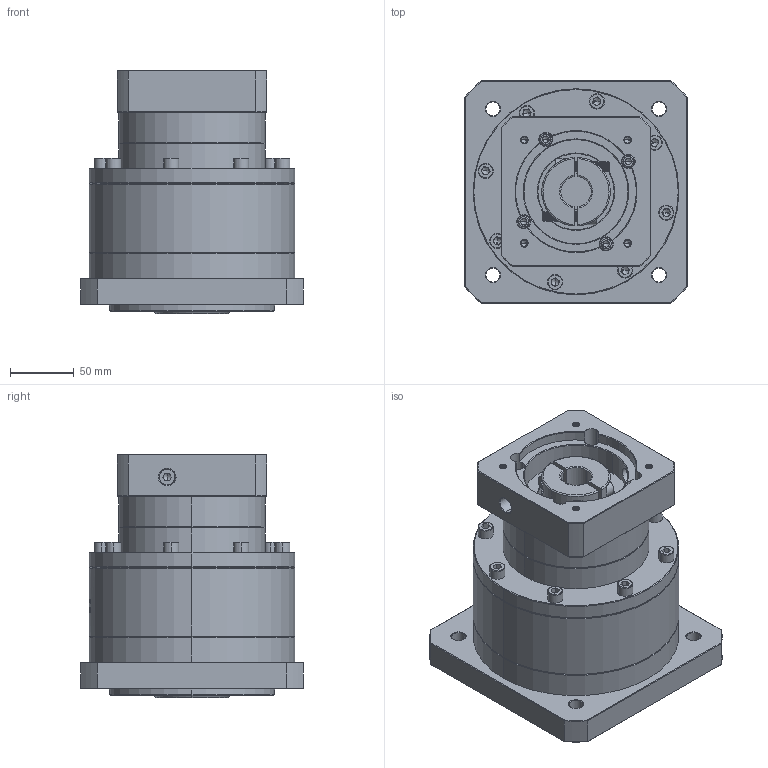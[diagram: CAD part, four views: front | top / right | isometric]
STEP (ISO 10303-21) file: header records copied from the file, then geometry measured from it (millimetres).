
FILE_DESCRIPTION (( 'STEP AP214' ), '1' );
FILE_NAME ('ZF160-K35-L2-24-95-115-M6.step', '2023-03-22T03:59:20', ( '' ), ( '' ), 'SwSTEP 2.0', 'SolidWorks 2016', '' );
FILE_SCHEMA (( 'AUTOMOTIVE_DESIGN' ));
Length unit declared in the file: millimetre
Products named in the file (1): ZF160-K35-L2-24-95-115-M6
Bounding box: 175 x 175 x 191.7 mm (x, y, z)
Volume: 3127542 mm3; surface area: 246823.9 mm2
Topology: 6 solids, 6 shells, 1816 faces, 4609 edges, 2914 vertices
Faces by surface type: plane 739, cylinder 446, cone 370, bspline 225, torus 36
Entity records: 92840 total; most frequent: CARTESIAN_POINT 31158, ORIENTED_EDGE 9114, DIRECTION 8067, EDGE_CURVE 4557, VERTEX_POINT 2914, AXIS2_PLACEMENT_3D 2810, LINE 2447, VECTOR 2447
